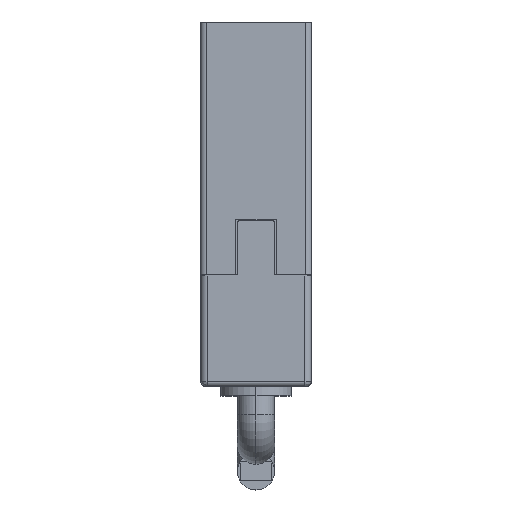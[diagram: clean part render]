
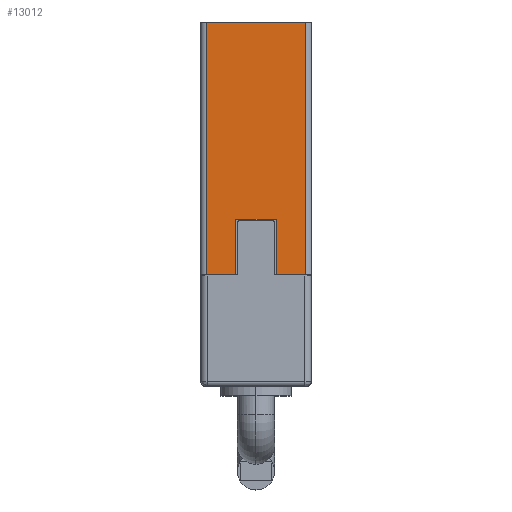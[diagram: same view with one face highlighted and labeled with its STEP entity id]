
A CAD part, top view. The second image highlights one B-rep face of the part: STEP entity #13012.
In plain terms, the highlighted planar face has unit normal (0, 0, 1).
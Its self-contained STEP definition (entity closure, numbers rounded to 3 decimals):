
#153 = ORIENTED_EDGE ( 'NONE', *, *, #3048, .F. ) ;
#273 = LINE ( 'NONE', #22145, #23432 ) ;
#585 = CARTESIAN_POINT ( 'NONE',  ( 58.343, -27.047, 187.477 ) ) ;
#657 = EDGE_CURVE ( 'NONE', #2935, #17227, #15491, .T. ) ;
#710 = ORIENTED_EDGE ( 'NONE', *, *, #21795, .T. ) ;
#884 = CARTESIAN_POINT ( 'NONE',  ( 69.593, 13.653, 187.477 ) ) ;
#1481 = VERTEX_POINT ( 'NONE', #884 ) ;
#1666 = VECTOR ( 'NONE', #9225, 1000. ) ;
#1716 = LINE ( 'NONE', #23420, #23554 ) ;
#2143 = CARTESIAN_POINT ( 'NONE',  ( 69.593, -27.047, 187.477 ) ) ;
#2153 = CARTESIAN_POINT ( 'NONE',  ( 64.843, -27.047, 187.477 ) ) ;
#2200 = CARTESIAN_POINT ( 'NONE',  ( 58.343, 17.853, 187.477 ) ) ;
#2935 = VERTEX_POINT ( 'NONE', #2153 ) ;
#3048 = EDGE_CURVE ( 'NONE', #17227, #3223, #5158, .T. ) ;
#3223 = VERTEX_POINT ( 'NONE', #11923 ) ;
#3302 = CARTESIAN_POINT ( 'NONE',  ( 69.593, 17.853, 187.477 ) ) ;
#3645 = ORIENTED_EDGE ( 'NONE', *, *, #16792, .F. ) ;
#4246 = DIRECTION ( 'NONE',  ( 0., 1., 0. ) ) ;
#4603 = VERTEX_POINT ( 'NONE', #2143 ) ;
#4830 = VERTEX_POINT ( 'NONE', #8864 ) ;
#5158 = LINE ( 'NONE', #18399, #1666 ) ;
#5661 = CARTESIAN_POINT ( 'NONE',  ( 53.593, -27.047, 187.477 ) ) ;
#6322 = CARTESIAN_POINT ( 'NONE',  ( 64.843, 17.853, 187.477 ) ) ;
#6412 = EDGE_CURVE ( 'NONE', #4603, #2935, #12343, .T. ) ;
#6890 = CARTESIAN_POINT ( 'NONE',  ( 52.593, -27.047, 187.477 ) ) ;
#7324 = ORIENTED_EDGE ( 'NONE', *, *, #657, .F. ) ;
#7744 = VECTOR ( 'NONE', #11641, 1000. ) ;
#8046 = DIRECTION ( 'NONE',  ( 0., 0., -1. ) ) ;
#8463 = DIRECTION ( 'NONE',  ( -1., 0., 0. ) ) ;
#8864 = CARTESIAN_POINT ( 'NONE',  ( 53.593, 13.653, 187.477 ) ) ;
#9056 = DIRECTION ( 'NONE',  ( -1., 0., 0. ) ) ;
#9225 = DIRECTION ( 'NONE',  ( -1., 0., 0. ) ) ;
#9534 = ORIENTED_EDGE ( 'NONE', *, *, #20994, .F. ) ;
#10189 = VECTOR ( 'NONE', #14642, 1000. ) ;
#10371 = ORIENTED_EDGE ( 'NONE', *, *, #12707, .F. ) ;
#11395 = LINE ( 'NONE', #2200, #7744 ) ;
#11569 = PLANE ( 'NONE',  #14429 ) ;
#11641 = DIRECTION ( 'NONE',  ( 0., -1., 0. ) ) ;
#11923 = CARTESIAN_POINT ( 'NONE',  ( 58.343, -18.147, 187.477 ) ) ;
#12219 = VERTEX_POINT ( 'NONE', #585 ) ;
#12300 = ORIENTED_EDGE ( 'NONE', *, *, #21513, .F. ) ;
#12343 = LINE ( 'NONE', #6890, #13992 ) ;
#12460 = CARTESIAN_POINT ( 'NONE',  ( 53.593, 17.853, 187.477 ) ) ;
#12707 = EDGE_CURVE ( 'NONE', #1481, #4603, #21637, .T. ) ;
#13012 = ADVANCED_FACE ( 'NONE', ( #22913 ), #11569, .F. ) ;
#13992 = VECTOR ( 'NONE', #8463, 1000. ) ;
#14429 = AXIS2_PLACEMENT_3D ( 'NONE', #22673, #8046, #15414 ) ;
#14642 = DIRECTION ( 'NONE',  ( 0., -1., 0. ) ) ;
#15414 = DIRECTION ( 'NONE',  ( 0., 1., 0. ) ) ;
#15491 = LINE ( 'NONE', #6322, #21682 ) ;
#16792 = EDGE_CURVE ( 'NONE', #12219, #18343, #273, .T. ) ;
#17227 = VERTEX_POINT ( 'NONE', #20903 ) ;
#17868 = LINE ( 'NONE', #12460, #19404 ) ;
#18343 = VERTEX_POINT ( 'NONE', #5661 ) ;
#18399 = CARTESIAN_POINT ( 'NONE',  ( 52.593, -18.147, 187.477 ) ) ;
#18625 = DIRECTION ( 'NONE',  ( -1., 0., 0. ) ) ;
#19404 = VECTOR ( 'NONE', #21481, 1000. ) ;
#20903 = CARTESIAN_POINT ( 'NONE',  ( 64.843, -18.147, 187.477 ) ) ;
#20994 = EDGE_CURVE ( 'NONE', #18343, #4830, #17868, .T. ) ;
#21481 = DIRECTION ( 'NONE',  ( 0., 1., 0. ) ) ;
#21513 = EDGE_CURVE ( 'NONE', #3223, #12219, #11395, .T. ) ;
#21637 = LINE ( 'NONE', #3302, #10189 ) ;
#21682 = VECTOR ( 'NONE', #4246, 1000. ) ;
#21795 = EDGE_CURVE ( 'NONE', #1481, #4830, #1716, .T. ) ;
#22145 = CARTESIAN_POINT ( 'NONE',  ( 61.593, -27.047, 187.477 ) ) ;
#22673 = CARTESIAN_POINT ( 'NONE',  ( 52.593, 17.853, 187.477 ) ) ;
#22913 = FACE_OUTER_BOUND ( 'NONE', #23305, .T. ) ;
#23305 = EDGE_LOOP ( 'NONE', ( #23647, #10371, #710, #9534, #3645, #12300, #153, #7324 ) ) ;
#23420 = CARTESIAN_POINT ( 'NONE',  ( 52.593, 13.653, 187.477 ) ) ;
#23432 = VECTOR ( 'NONE', #18625, 1000. ) ;
#23554 = VECTOR ( 'NONE', #9056, 1000. ) ;
#23647 = ORIENTED_EDGE ( 'NONE', *, *, #6412, .F. ) ;
